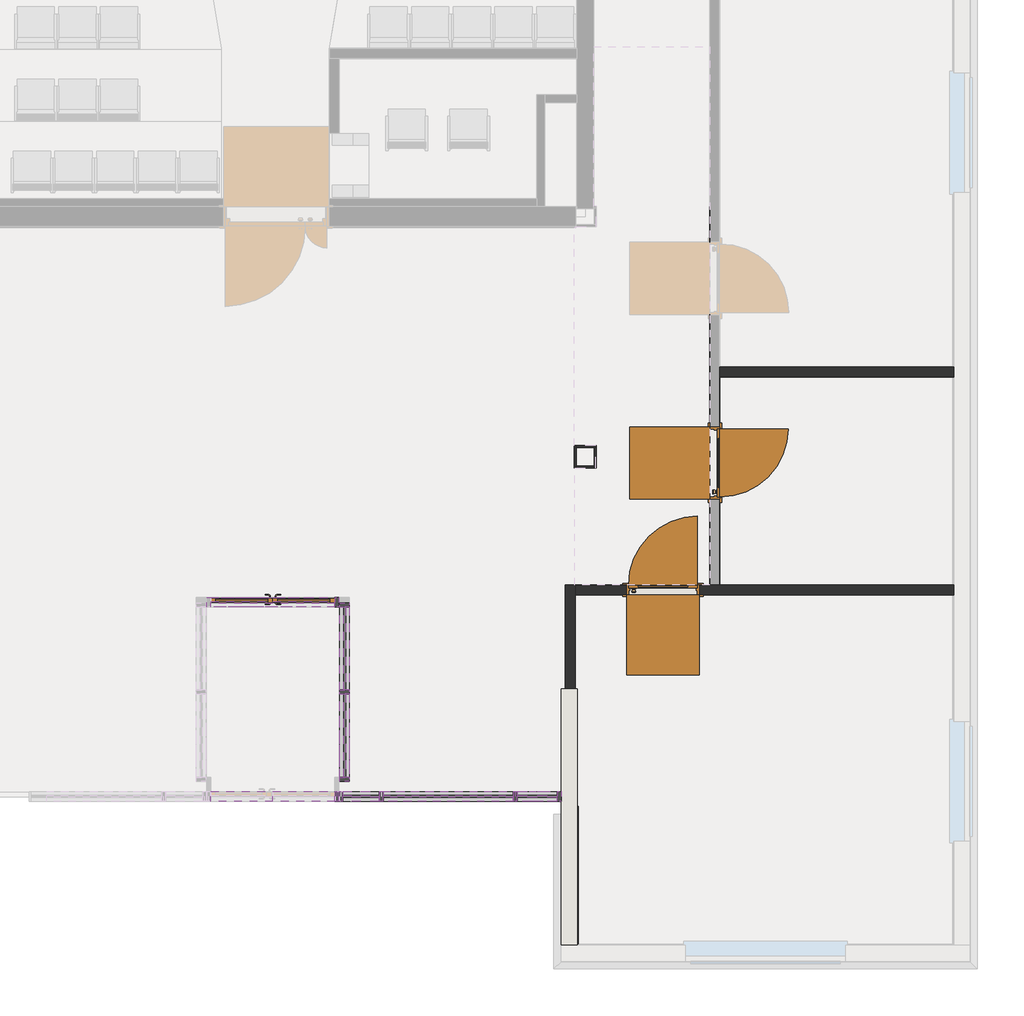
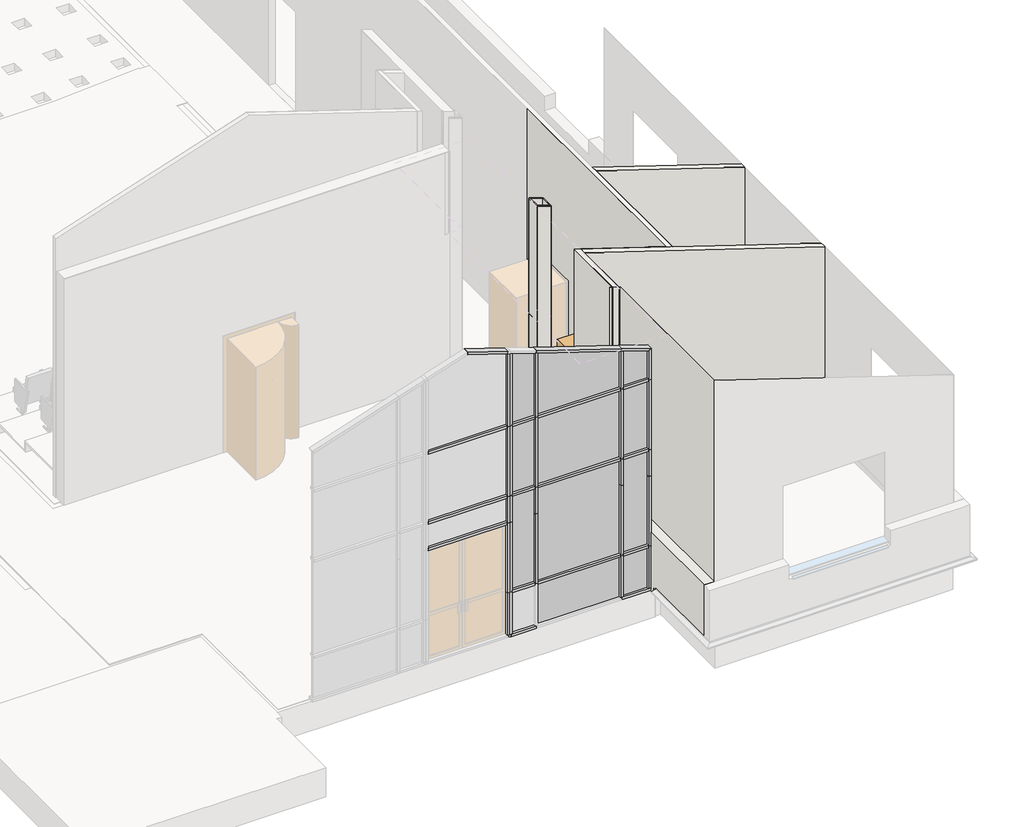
# One storey, part 3 of 12: 58 members, 24 walls, 16 plates, 3 doors.
"""IFC4 building model written with IfcOpenShell, lengths in millimetres."""

from ifc_helpers import new_model, si_unit, frame, origin, place, context, project, spatial, polyline, outline, extrude, faceted_brep, transform, mapped, element, save
from components import door_6d2ea87a, door_3526fbcb, door_7bd7211d, member_14b48f45, member_1f892d2c, member_0c93b0de, member_f3a47fe4, member_37b4f0c1, member_65f3ab26, member_be4b0839, member_e695081a, member_29d476af, member_6b16d565, member_849f455b, member_9f80fade, member_8a05520d, member_848a273c, member_29c79f2a, member_593096ae, member_ba40098e, member_371dc289, member_97a6f101, member_0fd53cfc, member_ea9aa2e4, member_955f90e7, member_051b1cdf, member_db976e64, member_66ab7281, member_6d54f6d0, member_7e95aabb, member_1ef56fb2, member_f5f8aabc, member_367de799, member_79c3f76f, member_659f706c, member_55b47cd8, member_7c7a4136, member_9a541c1d, plate_a1c813a6, plate_fddd94f5, plate_d262b3ab, plate_42e33a89, plate_0c04f2eb, plate_f36334f9, plate_ecf12d1f, plate_495b3162, plate_d46d3da3, plate_d651b3ad, plate_3bc05f15, plate_0d3e0286, plate_43bee1a1, plate_505dbdeb

model = new_model("IFC4")

# Units and contexts
model_context = context("Model", 3, world=origin())
ifc_project = project(units=[si_unit("LENGTHUNIT", "METRE", prefix="MILLI")], contexts=[model_context])

# Site, building, storey
site = spatial("IfcSite", under=ifc_project)
building = spatial("IfcBuilding", under=site)
storey = spatial("IfcBuildingStorey", under=building, Name="Этаж 01", Elevation=0.0)

# Doors
placement = place(None, origin())
door_shape = door_6d2ea87a(model_context)
element("IfcDoor", 1, ObjectType="Дверь-Витраж-Двойная-Витрина : Дверь-Витраж-Двойная-Витрина", at=placement, inside=storey, context=model_context, shape_type="MappedRepresentation", body=[
    mapped(door_shape, transform((8400.1019042, 4185.2487567, 50.0), x_axis=(1.0, 0.0, 0.0), y_axis=(0.0, 1.0, 0.0), z_axis=(0.0, 0.0, 1.0))),
])
door_2_shape = door_3526fbcb(model_context)
element("IfcDoor", 2, ObjectType="Дверь_Деревянная_Внутренняя_Однопольная_ГОСТ_475-2016 : 0910 х 2070(h)_Л_с Порогом", at=placement, inside=storey, context=model_context, shape_type="MappedRepresentation", body=[
    mapped(door_2_shape, transform((13270.0, 4340.6707095, 0.0), x_axis=(1.0, 0.0, 0.0), y_axis=(0.0, 1.0, 0.0), z_axis=(0.0, 0.0, 1.0))),
])
door_3_shape = door_7bd7211d(model_context)
element("IfcDoor", 3, ObjectType="Дверь_Деревянная_Внутренняя_Однопольная_ГОСТ_475-2016 : 1010 х 2070(h)_Пр_с Порогом 2", at=placement, inside=storey, context=model_context, shape_type="MappedRepresentation", body=[
    mapped(door_3_shape, transform((13920.675, 5924.9957095, 0.0), x_axis=(0.0, -1.0, 0.0), y_axis=(1.0, 0.0, 0.0), z_axis=(0.0, 0.0, 1.0))),
])

# Members
member_shape = member_14b48f45(model_context)
element("IfcMember", 4, ObjectType="Прямоугольный импост : 50х120 мм", at=placement, inside=storey, context=model_context, shape_type="MappedRepresentation", body=[
    mapped(member_shape, transform((11425.0, 1760.3517467, 0.0), x_axis=(0.0, 0.0, -1.0), y_axis=(0.0, -1.0, 0.0), z_axis=(-1.0, 0.0, 0.0))),
])
member_2_shape = member_1f892d2c(model_context)
element("IfcMember", 5, ObjectType="Прямоугольный импост : 50х120 мм", at=placement, inside=storey, context=model_context, shape_type="MappedRepresentation", body=[
    mapped(member_2_shape, transform((11950.0, 1760.3517467, 2925.0), x_axis=(0.0, 0.0, 1.0), y_axis=(0.0, -1.0, 0.0), z_axis=(1.0, 0.0, 0.0))),
])
element("IfcMember", 6, ObjectType="Прямоугольный импост : 50х120 мм", at=placement, inside=storey, context=model_context, shape_type="MappedRepresentation", body=[
    mapped(member_2_shape, transform((11950.0, 1760.3517467, 4375.0), x_axis=(0.0, 0.0, 1.0), y_axis=(0.0, -1.0, 0.0), z_axis=(1.0, 0.0, 0.0))),
])
element("IfcMember", 7, ObjectType="Прямоугольный импост : 50х120 мм", at=placement, inside=storey, context=model_context, shape_type="MappedRepresentation", body=[
    mapped(member_2_shape, transform((11950.0, 1760.3517467, 925.0), x_axis=(0.0, 0.0, 1.0), y_axis=(0.0, -1.0, 0.0), z_axis=(1.0, 0.0, 0.0))),
])
member_3_shape = member_0c93b0de(model_context)
element("IfcMember", 8, ObjectType="Прямоугольный импост : 50х120 мм", at=placement, inside=storey, context=model_context, shape_type="MappedRepresentation", body=[
    mapped(member_3_shape, transform((11425.0, 1760.3517467, 4375.0), x_axis=(1.0, 0.0, 0.0), y_axis=(0.0, -1.0, 0.0), z_axis=(0.0, 0.0, -1.0))),
])
member_4_shape = member_f3a47fe4(model_context)
element("IfcMember", 9, ObjectType="Прямоугольный импост : 50х120 мм", at=placement, inside=storey, context=model_context, shape_type="MappedRepresentation", body=[
    mapped(member_4_shape, transform((12000.0, 1760.3517467, 4375.0), x_axis=(1.0, 0.0, 0.0), y_axis=(0.0, -1.0, 0.0), z_axis=(0.0, 0.0, -1.0))),
])
member_5_shape = member_37b4f0c1(model_context)
element("IfcMember", 10, ObjectType="Прямоугольный импост : 50х120 мм", at=placement, inside=storey, context=model_context, shape_type="MappedRepresentation", body=[
    mapped(member_5_shape, transform((12000.0, 1760.3517467, 5024.9616899), x_axis=(0.30901699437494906, 0.0, 0.9510565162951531), y_axis=(0.0, -1.0, 0.0), z_axis=(0.9510565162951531, 0.0, -0.30901699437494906))),
])
member_6_shape = member_65f3ab26(model_context)
element("IfcMember", 11, ObjectType="Прямоугольный импост : 50х120 мм", at=placement, inside=storey, context=model_context, shape_type="MappedRepresentation", body=[
    mapped(member_6_shape, transform((11425.0, 1760.3517467, 5211.7905153), x_axis=(0.30901699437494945, 0.0, 0.951056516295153), y_axis=(0.0, -1.0, 0.0), z_axis=(0.951056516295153, 0.0, -0.30901699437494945))),
])
member_7_shape = member_be4b0839(model_context)
element("IfcMember", 12, ObjectType="Прямоугольный импост : 50х120 мм", at=placement, inside=storey, context=model_context, shape_type="MappedRepresentation", body=[
    mapped(member_7_shape, transform((9250.0630762, 1760.3517467, 0.0), x_axis=(0.0, 0.0, -1.0), y_axis=(0.0, -1.0, 0.0), z_axis=(-1.0, 0.0, 0.0))),
])
member_8_shape = member_e695081a(model_context)
element("IfcMember", 13, ObjectType="Прямоугольный импост : 50х120 мм", at=placement, inside=storey, context=model_context, shape_type="MappedRepresentation", body=[
    mapped(member_8_shape, transform((9725.0630762, 1760.3517467, 2925.0), x_axis=(0.0, 0.0, 1.0), y_axis=(0.0, -1.0, 0.0), z_axis=(1.0, 0.0, 0.0))),
])
element("IfcMember", 14, ObjectType="Прямоугольный импост : 50х120 мм", at=placement, inside=storey, context=model_context, shape_type="MappedRepresentation", body=[
    mapped(member_8_shape, transform((9725.0630762, 1760.3517467, 4375.0), x_axis=(0.0, 0.0, 1.0), y_axis=(0.0, -1.0, 0.0), z_axis=(1.0, 0.0, 0.0))),
])
element("IfcMember", 15, ObjectType="Прямоугольный импост : 50х120 мм", at=placement, inside=storey, context=model_context, shape_type="MappedRepresentation", body=[
    mapped(member_8_shape, transform((9725.0630762, 1760.3517467, 925.0), x_axis=(0.0, 0.0, 1.0), y_axis=(0.0, -1.0, 0.0), z_axis=(1.0, 0.0, 0.0))),
])
member_9_shape = member_29d476af(model_context)
element("IfcMember", 16, ObjectType="Прямоугольный импост : 50х120 мм", at=placement, inside=storey, context=model_context, shape_type="MappedRepresentation", body=[
    mapped(member_9_shape, transform((11400.0, 1760.3517467, 2925.0), x_axis=(0.0, 0.0, 1.0), y_axis=(0.0, -1.0, 0.0), z_axis=(1.0, 0.0, 0.0))),
])
element("IfcMember", 17, ObjectType="Прямоугольный импост : 50х120 мм", at=placement, inside=storey, context=model_context, shape_type="MappedRepresentation", body=[
    mapped(member_9_shape, transform((11400.0, 1760.3517467, 4375.0), x_axis=(0.0, 0.0, 1.0), y_axis=(0.0, -1.0, 0.0), z_axis=(1.0, 0.0, 0.0))),
])
element("IfcMember", 18, ObjectType="Прямоугольный импост : 50х120 мм", at=placement, inside=storey, context=model_context, shape_type="MappedRepresentation", body=[
    mapped(member_9_shape, transform((11400.0, 1760.3517467, 925.0), x_axis=(0.0, 0.0, 1.0), y_axis=(0.0, -1.0, 0.0), z_axis=(1.0, 0.0, 0.0))),
])
member_10_shape = member_6b16d565(model_context)
element("IfcMember", 19, ObjectType="Прямоугольный импост : 50х120 мм", at=placement, inside=storey, context=model_context, shape_type="MappedRepresentation", body=[
    mapped(member_10_shape, transform((9750.0630762, 1760.3517467, 4375.0), x_axis=(1.0, 0.0, 0.0), y_axis=(0.0, -1.0, 0.0), z_axis=(0.0, 0.0, -1.0))),
])
member_11_shape = member_849f455b(model_context)
element("IfcMember", 20, ObjectType="Прямоугольный импост : 50х120 мм", at=placement, inside=storey, context=model_context, shape_type="MappedRepresentation", body=[
    mapped(member_11_shape, transform((9200.0630762, 1760.3517467, 2925.0), x_axis=(1.0, 0.0, 0.0), y_axis=(0.0, -1.0, 0.0), z_axis=(0.0, 0.0, -1.0))),
])
element("IfcMember", 21, ObjectType="Прямоугольный импост : 50х120 мм", at=placement, inside=storey, context=model_context, shape_type="MappedRepresentation", body=[
    mapped(member_11_shape, transform((9250.0630762, 1760.3517467, 2925.0), x_axis=(1.0, 0.0, 0.0), y_axis=(0.0, -1.0, 0.0), z_axis=(0.0, 0.0, -1.0))),
])
element("IfcMember", 22, ObjectType="Прямоугольный импост : 50х120 мм", at=placement, inside=storey, context=model_context, shape_type="MappedRepresentation", body=[
    mapped(member_11_shape, transform((9750.0630762, 1760.3517467, 2925.0), x_axis=(1.0, 0.0, 0.0), y_axis=(0.0, -1.0, 0.0), z_axis=(0.0, 0.0, -1.0))),
])
element("IfcMember", 23, ObjectType="Прямоугольный импост : 50х120 мм", at=placement, inside=storey, context=model_context, shape_type="MappedRepresentation", body=[
    mapped(member_11_shape, transform((11425.0, 1760.3517467, 2925.0), x_axis=(1.0, 0.0, 0.0), y_axis=(0.0, -1.0, 0.0), z_axis=(0.0, 0.0, -1.0))),
])
element("IfcMember", 24, ObjectType="Прямоугольный импост : 50х120 мм", at=placement, inside=storey, context=model_context, shape_type="MappedRepresentation", body=[
    mapped(member_11_shape, transform((9200.0630762, 1760.3517467, 925.0), x_axis=(1.0, 0.0, 0.0), y_axis=(0.0, -1.0, 0.0), z_axis=(0.0, 0.0, -1.0))),
])
member_12_shape = member_9f80fade(model_context)
element("IfcMember", 25, ObjectType="Прямоугольный импост : 50х120 мм", at=placement, inside=storey, context=model_context, shape_type="MappedRepresentation", body=[
    mapped(member_12_shape, transform((12000.0, 1760.3517467, 2925.0), x_axis=(1.0, 0.0, 0.0), y_axis=(0.0, -1.0, 0.0), z_axis=(0.0, 0.0, -1.0))),
])
member_13_shape = member_8a05520d(model_context)
element("IfcMember", 26, ObjectType="Прямоугольный импост : 50х120 мм", at=placement, inside=storey, context=model_context, shape_type="MappedRepresentation", body=[
    mapped(member_13_shape, transform((9200.0630762, 1760.3517467, 0.0), x_axis=(0.0, 0.0, -1.0), y_axis=(0.0, -1.0, 0.0), z_axis=(-1.0, 0.0, 0.0))),
])
member_14_shape = member_848a273c(model_context)
element("IfcMember", 27, ObjectType="Прямоугольный импост : 50х120 мм", at=placement, inside=storey, context=model_context, shape_type="MappedRepresentation", body=[
    mapped(member_14_shape, transform((9175.0630762, 1760.3517467, 2925.0), x_axis=(0.0, 0.0, 1.0), y_axis=(0.0, -1.0, 0.0), z_axis=(1.0, 0.0, 0.0))),
])
element("IfcMember", 28, ObjectType="Прямоугольный импост : 50х120 мм", at=placement, inside=storey, context=model_context, shape_type="MappedRepresentation", body=[
    mapped(member_14_shape, transform((9175.0630762, 1760.3517467, 4375.0), x_axis=(0.0, 0.0, 1.0), y_axis=(0.0, -1.0, 0.0), z_axis=(1.0, 0.0, 0.0))),
])
element("IfcMember", 29, ObjectType="Прямоугольный импост : 50х120 мм", at=placement, inside=storey, context=model_context, shape_type="MappedRepresentation", body=[
    mapped(member_14_shape, transform((9175.1019042, 4185.2487567, 2420.0), x_axis=(0.0, 0.0, 1.0), y_axis=(0.0, -1.0, 0.0), z_axis=(1.0, 0.0, 0.0))),
])
element("IfcMember", 30, ObjectType="Прямоугольный импост : 50х120 мм", at=placement, inside=storey, context=model_context, shape_type="MappedRepresentation", body=[
    mapped(member_14_shape, transform((9175.0630762, 1760.3517467, 2375.0), x_axis=(0.0, 0.0, 1.0), y_axis=(0.0, -1.0, 0.0), z_axis=(1.0, 0.0, 0.0))),
])
member_15_shape = member_29c79f2a(model_context)
element("IfcMember", 31, ObjectType="Прямоугольный импост : 50х120 мм", at=placement, inside=storey, context=model_context, shape_type="MappedRepresentation", body=[
    mapped(member_15_shape, transform((11425.0, 1760.3517467, 50.0), x_axis=(1.0, 0.0, 0.0), y_axis=(0.0, -1.0, 0.0), z_axis=(0.0, 0.0, -1.0))),
])
element("IfcMember", 32, ObjectType="Прямоугольный импост : 50х120 мм", at=placement, inside=storey, context=model_context, shape_type="MappedRepresentation", body=[
    mapped(member_15_shape, transform((9250.0630762, 1760.3517467, 50.0), x_axis=(1.0, 0.0, 0.0), y_axis=(0.0, -1.0, 0.0), z_axis=(0.0, 0.0, -1.0))),
])
element("IfcMember", 33, ObjectType="Прямоугольный импост : 50х120 мм", at=placement, inside=storey, context=model_context, shape_type="MappedRepresentation", body=[
    mapped(member_15_shape, transform((9200.0630762, 1760.3517467, 50.0), x_axis=(1.0, 0.0, 0.0), y_axis=(0.0, -1.0, 0.0), z_axis=(0.0, 0.0, -1.0))),
])
member_16_shape = member_593096ae(model_context)
element("IfcMember", 34, ObjectType="Прямоугольный импост : 50х120 мм", at=placement, inside=storey, context=model_context, shape_type="MappedRepresentation", body=[
    mapped(member_16_shape, transform((12000.0, 1760.3517467, 50.0), x_axis=(1.0, 0.0, 0.0), y_axis=(0.0, -1.0, 0.0), z_axis=(0.0, 0.0, -1.0))),
])
member_17_shape = member_ba40098e(model_context)
element("IfcMember", 35, ObjectType="Прямоугольный импост : 50х120 мм", at=placement, inside=storey, context=model_context, shape_type="MappedRepresentation", body=[
    mapped(member_17_shape, transform((9175.1019042, 4185.2487567, 2950.0), x_axis=(0.0, 0.0, 1.0), y_axis=(0.0, -1.0, 0.0), z_axis=(1.0, 0.0, 0.0))),
])
member_18_shape = member_371dc289(model_context)
element("IfcMember", 36, ObjectType="Прямоугольный импост : 50х120 мм", at=placement, inside=storey, context=model_context, shape_type="MappedRepresentation", body=[
    mapped(member_18_shape, transform((9225.1019042, 4185.2487567, 50.0), x_axis=(1.0, 0.0, 0.0), y_axis=(0.0, -1.0, 0.0), z_axis=(0.0, 0.0, -1.0))),
])
member_19_shape = member_97a6f101(model_context)
element("IfcMember", 37, ObjectType="Прямоугольный импост : 50х120 мм", at=placement, inside=storey, context=model_context, shape_type="MappedRepresentation", body=[
    mapped(member_19_shape, transform((9225.1019042, 4185.2487567, 2420.0), x_axis=(1.0, 0.0, 0.0), y_axis=(0.0, -1.0, 0.0), z_axis=(0.0, 0.0, -1.0))),
])
member_20_shape = member_0fd53cfc(model_context)
element("IfcMember", 38, ObjectType="Прямоугольный импост : 50х120 мм", at=placement, inside=storey, context=model_context, shape_type="MappedRepresentation", body=[
    mapped(member_20_shape, transform((9295.0, 3062.7487567, 0.0), x_axis=(0.0, 0.0, -1.0), y_axis=(1.0, 0.0, 0.0), z_axis=(0.0, -1.0, 0.0))),
])
member_21_shape = member_ea9aa2e4(model_context)
element("IfcMember", 39, ObjectType="Прямоугольный импост : 50х120 мм", at=placement, inside=storey, context=model_context, shape_type="MappedRepresentation", body=[
    mapped(member_21_shape, transform((9295.0, 3062.7487567, 50.0), x_axis=(0.0, 1.0, 0.0), y_axis=(1.0, 0.0, 0.0), z_axis=(0.0, 0.0, -1.0))),
])
member_22_shape = member_955f90e7(model_context)
element("IfcMember", 40, ObjectType="Прямоугольный импост : 50х120 мм", at=placement, inside=storey, context=model_context, shape_type="MappedRepresentation", body=[
    mapped(member_22_shape, transform((9295.0, 3037.7487567, 2390.0), x_axis=(0.0, 0.0, 1.0), y_axis=(1.0, 0.0, 0.0), z_axis=(0.0, 1.0, 0.0))),
])
element("IfcMember", 41, ObjectType="Прямоугольный импост : 50х120 мм", at=placement, inside=storey, context=model_context, shape_type="MappedRepresentation", body=[
    mapped(member_22_shape, transform((9295.0, 4125.2487567, 2390.0), x_axis=(0.0, 0.0, 1.0), y_axis=(1.0, 0.0, 0.0), z_axis=(0.0, 1.0, 0.0))),
])
member_23_shape = member_051b1cdf(model_context)
element("IfcMember", 42, ObjectType="Прямоугольный импост : 50х120 мм", at=placement, inside=storey, context=model_context, shape_type="MappedRepresentation", body=[
    mapped(member_23_shape, transform((9295.0, 4175.2487567, 50.0), x_axis=(0.0, 1.0, 0.0), y_axis=(1.0, 0.0, 0.0), z_axis=(0.0, 0.0, -1.0))),
])
member_24_shape = member_db976e64(model_context)
element("IfcMember", 43, ObjectType="Прямоугольный импост : 50х120 мм", at=placement, inside=storey, context=model_context, shape_type="MappedRepresentation", body=[
    mapped(member_24_shape, transform((9295.0, 1950.2487567, 2900.0), x_axis=(0.0, -1.0, 0.0), y_axis=(1.0, 0.0, 0.0), z_axis=(0.0, 0.0, 1.0))),
])
member_25_shape = member_66ab7281(model_context)
element("IfcMember", 44, ObjectType="Прямоугольный импост : 50х120 мм", at=placement, inside=storey, context=model_context, shape_type="MappedRepresentation", body=[
    mapped(member_25_shape, transform((9295.0, 4125.2487567, 2950.0), x_axis=(0.0, 0.0, 1.0), y_axis=(1.0, 0.0, 0.0), z_axis=(0.0, 1.0, 0.0))),
])
member_26_shape = member_6d54f6d0(model_context)
element("IfcMember", 45, ObjectType="Прямоугольный импост : 50х120 мм", at=placement, inside=storey, context=model_context, shape_type="MappedRepresentation", body=[
    mapped(member_26_shape, transform((9295.0, 2000.2487567, 0.0), x_axis=(0.0, 0.0, -1.0), y_axis=(1.0, 0.0, 0.0), z_axis=(0.0, -1.0, 0.0))),
])
member_27_shape = member_7e95aabb(model_context)
element("IfcMember", 46, ObjectType="Прямоугольный импост : 50х120 мм", at=placement, inside=storey, context=model_context, shape_type="MappedRepresentation", body=[
    mapped(member_27_shape, transform((9295.0, 3037.7487567, 2950.0), x_axis=(0.0, 0.0, 1.0), y_axis=(1.0, 0.0, 0.0), z_axis=(0.0, 1.0, 0.0))),
])
member_28_shape = member_1ef56fb2(model_context)
element("IfcMember", 47, ObjectType="Прямоугольный импост : 50х120 мм", at=placement, inside=storey, context=model_context, shape_type="MappedRepresentation", body=[
    mapped(member_28_shape, transform((9295.0, 3062.7487567, 2390.0), x_axis=(0.0, 1.0, 0.0), y_axis=(1.0, 0.0, 0.0), z_axis=(0.0, 0.0, -1.0))),
])
member_29_shape = member_f5f8aabc(model_context)
element("IfcMember", 48, ObjectType="Прямоугольный импост : 50х120 мм", at=placement, inside=storey, context=model_context, shape_type="MappedRepresentation", body=[
    mapped(member_29_shape, transform((9295.0, 4175.2487567, 2390.0), x_axis=(0.0, 1.0, 0.0), y_axis=(1.0, 0.0, 0.0), z_axis=(0.0, 0.0, -1.0))),
])
member_30_shape = member_367de799(model_context)
element("IfcMember", 49, ObjectType="Прямоугольный импост : 50х120 мм", at=placement, inside=storey, context=model_context, shape_type="MappedRepresentation", body=[
    mapped(member_30_shape, transform((9295.0, 1950.2487567, 2390.0), x_axis=(0.0, -1.0, 0.0), y_axis=(1.0, 0.0, 0.0), z_axis=(0.0, 0.0, 1.0))),
])
element("IfcMember", 50, ObjectType="Прямоугольный импост : 50х120 мм", at=placement, inside=storey, context=model_context, shape_type="MappedRepresentation", body=[
    mapped(member_11_shape, transform((9250.0630762, 1760.3517467, 925.0), x_axis=(1.0, 0.0, 0.0), y_axis=(0.0, -1.0, 0.0), z_axis=(0.0, 0.0, -1.0))),
])
element("IfcMember", 51, ObjectType="Прямоугольный импост : 50х120 мм", at=placement, inside=storey, context=model_context, shape_type="MappedRepresentation", body=[
    mapped(member_11_shape, transform((9750.0630762, 1760.3517467, 925.0), x_axis=(1.0, 0.0, 0.0), y_axis=(0.0, -1.0, 0.0), z_axis=(0.0, 0.0, -1.0))),
])
element("IfcMember", 52, ObjectType="Прямоугольный импост : 50х120 мм", at=placement, inside=storey, context=model_context, shape_type="MappedRepresentation", body=[
    mapped(member_11_shape, transform((11425.0, 1760.3517467, 925.0), x_axis=(1.0, 0.0, 0.0), y_axis=(0.0, -1.0, 0.0), z_axis=(0.0, 0.0, -1.0))),
])
member_31_shape = member_79c3f76f(model_context)
element("IfcMember", 53, ObjectType="Прямоугольный импост : 50х120 мм", at=placement, inside=storey, context=model_context, shape_type="MappedRepresentation", body=[
    mapped(member_31_shape, transform((9250.0630762, 1760.3517467, 2375.0), x_axis=(1.0, 0.0, 0.0), y_axis=(0.0, -1.0, 0.0), z_axis=(0.0, 0.0, -1.0))),
])
element("IfcMember", 54, ObjectType="Прямоугольный импост : 50х120 мм", at=placement, inside=storey, context=model_context, shape_type="MappedRepresentation", body=[
    mapped(member_31_shape, transform((9750.0630762, 1760.3517467, 2375.0), x_axis=(1.0, 0.0, 0.0), y_axis=(0.0, -1.0, 0.0), z_axis=(0.0, 0.0, -1.0))),
])
element("IfcMember", 55, ObjectType="Прямоугольный импост : 50х120 мм", at=placement, inside=storey, context=model_context, shape_type="MappedRepresentation", body=[
    mapped(member_31_shape, transform((11425.0, 1760.3517467, 2375.0), x_axis=(1.0, 0.0, 0.0), y_axis=(0.0, -1.0, 0.0), z_axis=(0.0, 0.0, -1.0))),
])
element("IfcMember", 56, ObjectType="Прямоугольный импост : 50х120 мм", at=placement, inside=storey, context=model_context, shape_type="MappedRepresentation", body=[
    mapped(member_31_shape, transform((9200.0630762, 1760.3517467, 2375.0), x_axis=(1.0, 0.0, 0.0), y_axis=(0.0, -1.0, 0.0), z_axis=(0.0, 0.0, -1.0))),
])
element("IfcMember", 57, ObjectType="Прямоугольный импост : 50х120 мм", at=placement, inside=storey, context=model_context, shape_type="MappedRepresentation", body=[
    mapped(member_12_shape, transform((12000.0, 1760.3517467, 925.0), x_axis=(1.0, 0.0, 0.0), y_axis=(0.0, -1.0, 0.0), z_axis=(0.0, 0.0, -1.0))),
])
member_32_shape = member_659f706c(model_context)
element("IfcMember", 58, ObjectType="Прямоугольный импост : 50х120 мм", at=placement, inside=storey, context=model_context, shape_type="MappedRepresentation", body=[
    mapped(member_32_shape, transform((12000.0, 1760.3517467, 2375.0), x_axis=(1.0, 0.0, 0.0), y_axis=(0.0, -1.0, 0.0), z_axis=(0.0, 0.0, -1.0))),
])
member_33_shape = member_55b47cd8(model_context)
element("IfcMember", 59, ObjectType="Прямоугольный импост : 50х120 мм", at=placement, inside=storey, context=model_context, shape_type="MappedRepresentation", body=[
    mapped(member_33_shape, transform((9200.0630762, 1760.3517467, 5934.7163447), x_axis=(0.30901699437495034, 0.0, 0.9510565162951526), y_axis=(0.0, -1.0, 0.0), z_axis=(0.9510565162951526, 0.0, -0.30901699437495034))),
])
member_34_shape = member_7c7a4136(model_context)
element("IfcMember", 60, ObjectType="Прямоугольный импост : 50х120 мм", at=placement, inside=storey, context=model_context, shape_type="MappedRepresentation", body=[
    mapped(member_34_shape, transform((9200.0630762, 1760.3517467, 4375.0), x_axis=(1.0, 0.0, 0.0), y_axis=(0.0, -1.0, 0.0), z_axis=(0.0, 0.0, -1.0))),
])
member_35_shape = member_9a541c1d(model_context)
element("IfcMember", 61, ObjectType="Прямоугольный импост : 50х120 мм", at=placement, inside=storey, context=model_context, shape_type="MappedRepresentation", body=[
    mapped(member_35_shape, transform((9250.0630762, 1760.3517467, 4375.0), x_axis=(1.0, 0.0, 0.0), y_axis=(0.0, -1.0, 0.0), z_axis=(0.0, 0.0, -1.0))),
])

# Plates
plate_shape = plate_a1c813a6(model_context)
element("IfcPlate", 62, ObjectType="Системная панель : ADSK_Cтеклопакет_25", at=placement, inside=storey, context=model_context, shape_type="MappedRepresentation", body=[
    mapped(plate_shape, transform((11700.0, 1760.3517467, 50.0), x_axis=(1.0, 0.0, 0.0), y_axis=(0.0, 1.0, 0.0), z_axis=(0.0, 0.0, 1.0))),
])
plate_2_shape = plate_fddd94f5(model_context)
element("IfcPlate", 63, ObjectType="Системная панель : ADSK_Cтеклопакет_25 мм", at=placement, inside=storey, context=model_context, shape_type="MappedRepresentation", body=[
    mapped(plate_2_shape, transform((11700.0, 1760.3517467, 2950.0), x_axis=(1.0, 0.0, 0.0), y_axis=(0.0, 1.0, 0.0), z_axis=(0.0, 0.0, 1.0))),
])
plate_3_shape = plate_d262b3ab(model_context)
element("IfcPlate", 64, ObjectType="Системная панель : ADSK_Cтеклопакет_25 мм", at=placement, inside=storey, context=model_context, shape_type="MappedRepresentation", body=[
    mapped(plate_3_shape, transform((11700.0, 1760.3517467, 4400.0), x_axis=(1.0, 0.0, 0.0), y_axis=(0.0, 1.0, 0.0), z_axis=(0.0, 0.0, 1.0))),
])
plate_4_shape = plate_42e33a89(model_context)
element("IfcPlate", 65, ObjectType="Системная панель : ADSK_Cтеклопакет_25 мм", at=placement, inside=storey, context=model_context, shape_type="MappedRepresentation", body=[
    mapped(plate_4_shape, transform((11700.0, 1760.3517467, 950.0), x_axis=(1.0, 0.0, 0.0), y_axis=(0.0, 1.0, 0.0), z_axis=(0.0, 0.0, 1.0))),
])
plate_5_shape = plate_0c04f2eb(model_context)
element("IfcPlate", 66, ObjectType="Системная панель : ADSK_Cтеклопакет_25", at=placement, inside=storey, context=model_context, shape_type="MappedRepresentation", body=[
    mapped(plate_5_shape, transform((10587.5315381, 1760.3517467, 50.0), x_axis=(1.0, 0.0, 0.0), y_axis=(0.0, 1.0, 0.0), z_axis=(0.0, 0.0, 1.0))),
])
plate_6_shape = plate_f36334f9(model_context)
element("IfcPlate", 67, ObjectType="Системная панель : ADSK_Cтеклопакет_25 мм", at=placement, inside=storey, context=model_context, shape_type="MappedRepresentation", body=[
    mapped(plate_6_shape, transform((9500.0630762, 1760.3517467, 2950.0), x_axis=(1.0, 0.0, 0.0), y_axis=(0.0, 1.0, 0.0), z_axis=(0.0, 0.0, 1.0))),
])
plate_7_shape = plate_ecf12d1f(model_context)
element("IfcPlate", 68, ObjectType="Системная панель : ADSK_Cтеклопакет_25 мм", at=placement, inside=storey, context=model_context, shape_type="MappedRepresentation", body=[
    mapped(plate_7_shape, transform((10587.5315381, 1760.3517467, 2950.0), x_axis=(1.0, 0.0, 0.0), y_axis=(0.0, 1.0, 0.0), z_axis=(0.0, 0.0, 1.0))),
])
plate_8_shape = plate_495b3162(model_context)
element("IfcPlate", 69, ObjectType="Системная панель : ADSK_Cтеклопакет_25 мм", at=placement, inside=storey, context=model_context, shape_type="MappedRepresentation", body=[
    mapped(plate_8_shape, transform((9500.0630762, 1760.3517467, 4400.0), x_axis=(1.0, 0.0, 0.0), y_axis=(0.0, 1.0, 0.0), z_axis=(0.0, 0.0, 1.0))),
])
plate_9_shape = plate_d46d3da3(model_context)
element("IfcPlate", 70, ObjectType="Системная панель : ADSK_Cтеклопакет_25 мм", at=placement, inside=storey, context=model_context, shape_type="MappedRepresentation", body=[
    mapped(plate_9_shape, transform((10587.5315381, 1760.3517467, 4400.0), x_axis=(1.0, 0.0, 0.0), y_axis=(0.0, 1.0, 0.0), z_axis=(0.0, 0.0, 1.0))),
])
plate_10_shape = plate_d651b3ad(model_context)
element("IfcPlate", 71, ObjectType="Системная панель : ADSK_Cтеклопакет_25 мм", at=placement, inside=storey, context=model_context, shape_type="MappedRepresentation", body=[
    mapped(plate_10_shape, transform((9500.0630762, 1760.3517467, 950.0), x_axis=(1.0, 0.0, 0.0), y_axis=(0.0, 1.0, 0.0), z_axis=(0.0, 0.0, 1.0))),
])
plate_11_shape = plate_3bc05f15(model_context)
element("IfcPlate", 72, ObjectType="Системная панель : ADSK_Cтеклопакет_25 мм", at=placement, inside=storey, context=model_context, shape_type="MappedRepresentation", body=[
    mapped(plate_11_shape, transform((10587.5315381, 1760.3517467, 950.0), x_axis=(1.0, 0.0, 0.0), y_axis=(0.0, 1.0, 0.0), z_axis=(0.0, 0.0, 1.0))),
])
plate_12_shape = plate_0d3e0286(model_context)
element("IfcPlate", 73, ObjectType="Системная панель : ADSK_Cтеклопакет_25 мм", at=placement, inside=storey, context=model_context, shape_type="MappedRepresentation", body=[
    mapped(plate_12_shape, transform((8400.1019042, 4185.2487567, 2445.0), x_axis=(1.0, 0.0, 0.0), y_axis=(0.0, 1.0, 0.0), z_axis=(0.0, 0.0, 1.0))),
])
plate_13_shape = plate_43bee1a1(model_context)
element("IfcPlate", 74, ObjectType="Системная панель : ADSK_Cтеклопакет_25 мм", at=placement, inside=storey, context=model_context, shape_type="MappedRepresentation", body=[
    mapped(plate_13_shape, transform((9295.0, 2518.9987567, 50.0), x_axis=(0.0, 1.0, 0.0), y_axis=(-1.0, 0.0, 0.0), z_axis=(0.0, 0.0, 1.0))),
])
element("IfcPlate", 75, ObjectType="Системная панель : ADSK_Cтеклопакет_25 мм", at=placement, inside=storey, context=model_context, shape_type="MappedRepresentation", body=[
    mapped(plate_13_shape, transform((9295.0, 3606.4987567, 50.0), x_axis=(0.0, 1.0, 0.0), y_axis=(-1.0, 0.0, 0.0), z_axis=(0.0, 0.0, 1.0))),
])
plate_14_shape = plate_505dbdeb(model_context)
element("IfcPlate", 76, ObjectType="Системная панель : ADSK_Cтеклопакет_25 мм", at=placement, inside=storey, context=model_context, shape_type="MappedRepresentation", body=[
    mapped(plate_14_shape, transform((9295.0, 2518.9987567, 2415.0), x_axis=(0.0, 1.0, 0.0), y_axis=(-1.0, 0.0, 0.0), z_axis=(0.0, 0.0, 1.0))),
])
element("IfcPlate", 77, ObjectType="Системная панель : ADSK_Cтеклопакет_25 мм", at=placement, inside=storey, context=model_context, shape_type="MappedRepresentation", body=[
    mapped(plate_14_shape, transform((9295.0, 3606.4987567, 2415.0), x_axis=(0.0, 1.0, 0.0), y_axis=(-1.0, 0.0, 0.0), z_axis=(0.0, 0.0, 1.0))),
])

# Walls
element("IfcWall", 78, ObjectType="Перегородка-КНАУФ-С362-Применение внутри здания-125/75@600 ГВЛ(ГВЛВ)  12,5", at=placement, inside=storey, context=model_context, shape_type="Brep", body=[
    faceted_brep([(12175.0, 3100.0, -20.0), (12175.0, 4337.4957095, -20.0), (12175.0, 4399.9957095, -20.0), (12175.0, 4399.9957095, 5383.3987949), (12175.0, 4274.9957095, 5383.3987949), (12175.0, 3100.0, 5383.3987949), (12050.0, 3100.0, -20.0), (12050.0, 3100.0, 5424.0147289), (12050.0, 4399.9957095, 5424.0147289), (12050.0, 4399.9957095, -20.0)], [[[0, 1, 2, 3, 4, 5]], [[6, 7, 8, 9]], [[2, 1, 0, 6, 9]], [[0, 5, 7, 6]], [[5, 4, 3, 8, 7]], [[3, 2, 9, 8]]]),
])
element("IfcWall", 79, ObjectType="Перегородка-КНАУФ-С362-Применение внутри здания-125/75@600 ГВЛ(ГВЛВ)  12,5", at=placement, inside=storey, context=model_context, shape_type="Brep", body=[
    faceted_brep([(16900.0, 4274.9957095, 3848.1164919), (12175.0, 4274.9957095, 5383.3987949), (12175.0, 4274.9957095, -3.0), (16885.0, 4274.9957095, -3.0), (16885.0, 4274.9957095, 100.0), (16899.0, 4274.9957095, 100.0), (16900.0, 4274.9957095, 100.0), (13725.0, 4274.9957095, 2070.0), (13725.0, 4274.9957095, 0.0), (12815.0, 4274.9957095, 0.0), (12815.0, 4274.9957095, 2070.0), (16885.0, 4399.9957095, 100.0), (16885.0, 4399.9957095, -20.0), (13980.0, 4399.9957095, -20.0), (13855.0, 4399.9957095, -20.0), (12175.0, 4399.9957095, -20.0), (12175.0, 4399.9957095, 0.0), (12175.0, 4399.9957095, 5383.3987949), (13855.0, 4399.9957095, 4837.5206427), (13980.0, 4399.9957095, 4796.9047088), (16900.0, 4399.9957095, 3848.1164919), (16900.0, 4399.9957095, 100.0), (16899.0, 4399.9957095, 100.0), (13725.0, 4399.9957095, 0.0), (13725.0, 4399.9957095, 2070.0), (12815.0, 4399.9957095, 2070.0), (12815.0, 4399.9957095, 0.0), (16885.0, 4337.4957095, -20.0), (12175.0, 4337.4957095, -20.0), (16885.0, 4337.4957095, -3.0), (12175.0, 4337.4957095, -3.0)], [[[0, 1, 2, 3, 4, 5, 6], [7, 8, 9, 10]], [[11, 12, 13, 14, 15, 16, 17, 18, 19, 20, 21, 22], [23, 24, 25, 26]], [[27, 28, 15, 14, 13, 12]], [[23, 8, 7, 24]], [[24, 7, 10, 25]], [[9, 26, 25, 10]], [[8, 23, 26, 9]], [[12, 11, 4, 3, 29, 27]], [[1, 0, 20, 19, 18, 17]], [[6, 5, 4, 11, 22, 21]], [[20, 0, 6, 21]], [[3, 2, 30, 29]], [[28, 27, 29, 30]], [[1, 17, 16, 15, 28, 30, 2]]]),
])
element("IfcWall", 80, ObjectType="Перегородка-КНАУФ-С362-Применение внутри здания-125/75@600 ГВЛ(ГВЛВ)  12,5", at=placement, inside=storey, context=model_context, shape_type="Brep", body=[
    faceted_brep([(13980.0, 7000.0, -20.0), (16885.0, 7000.0, -20.0), (16885.0, 7000.0, 100.0), (16899.0, 7000.0, 100.0), (16900.0, 7000.0, 100.0), (16900.0, 7000.0, 3848.1164919), (13980.0, 7000.0, 4796.9047088), (13980.0, 7125.0, 4796.9047088), (16900.0, 7125.0, 3848.1164919), (16900.0, 7125.0, 100.0), (16885.0, 7125.0, 100.0), (16885.0, 7125.0, -3.0), (13980.0, 7125.0, -3.0), (13980.0, 7062.5, -20.0), (16885.0, 7062.5, -20.0), (13980.0, 7062.5, -3.0), (16885.0, 7062.5, -3.0)], [[[0, 1, 2, 3, 4, 5, 6]], [[7, 8, 9, 10, 11, 12]], [[1, 0, 13, 14]], [[0, 6, 7, 12, 15, 13]], [[2, 1, 14, 16, 11, 10]], [[6, 5, 8, 7]], [[16, 15, 12, 11]], [[15, 16, 14, 13]], [[8, 5, 4, 9]], [[4, 3, 2, 10, 9]]]),
])
element("IfcWall", 81, ObjectType="ADSK_Наружная_Сэндвич_Утеплитель_200 RAL 8017", at=placement, inside=storey, context=model_context, shape_type="Brep", body=[
    faceted_brep([(12200.0, -100.0, 100.0), (12200.0, 1635.3517467, 100.0), (12200.0, 1635.3517467, 0.0), (12200.0, 1635.3517467, -3.0), (12200.0, 1635.3517467, -20.0), (12200.0, 3100.5, -20.0), (12200.0, 3100.5, 1200.0), (12200.0, -100.0, 1200.0), (12000.0, -100.0, 100.0), (12000.0, -100.0, 1200.0), (12000.0, 3100.5, 1200.0), (12000.0, 3100.5, -20.0), (12000.0, 1635.3517467, -20.0), (12000.0, 1635.3517467, 100.0), (12095.0, 1635.3517467, 100.0), (12095.0, 1635.3517467, -20.0)], [[[0, 1, 2, 3, 4, 5, 6, 7]], [[8, 9, 10, 11, 12, 13]], [[0, 7, 9, 8]], [[1, 0, 8, 13, 14]], [[6, 5, 11, 10]], [[7, 6, 10, 9]], [[4, 3, 2, 1, 14, 13, 12, 15]], [[5, 4, 15, 12, 11]]]),
])
element("IfcWall", 82, ObjectType="ADSK_Внутренняя_Кирпич_120", at=placement, inside=storey, context=model_context, shape_type="Brep", body=[
    faceted_brep([(12215.0, 1635.3517467, 100.0), (12215.0, -85.0, 100.0), (12215.0, -85.0, 0.0), (12215.0, 1635.3517467, 0.0), (12215.0, -85.0, -3.0), (12215.0, -85.0, -25.0), (12215.0, 45.0, -25.0), (12215.0, 45.0, -20.0), (12215.0, 1635.3517467, -20.0), (12215.0, 1635.3517467, -3.0), (12095.0, -85.0, 100.0), (12095.0, 1635.3517467, 100.0), (12095.0, 1635.3517467, -20.0), (12095.0, 45.0, -20.0), (12095.0, 45.0, -25.0), (12095.0, -85.0, -25.0), (12200.0, 1635.3517467, 100.0), (12200.0, 1635.3517467, 0.0), (12200.0, 1635.3517467, -3.0), (12200.0, 1635.3517467, -20.0), (12200.0, -85.0, -3.0), (12200.0, -85.0, 0.0)], [[[0, 1, 2, 3]], [[4, 5, 6, 7, 8, 9]], [[10, 11, 12, 13, 14, 15]], [[5, 15, 14, 6]], [[11, 16, 0, 3, 17, 18, 9, 8, 19, 12]], [[1, 0, 16, 11, 10]], [[7, 13, 12, 19, 8]], [[13, 7, 6, 14]], [[18, 20, 4, 9]], [[21, 17, 3, 2]], [[20, 18, 17, 21]], [[1, 10, 15, 5, 4, 20, 21, 2]]]),
])
element("IfcWall", 83, ObjectType="Отделка - Акриловая покраска по Кнауф-суперлистам_1 мм", at=placement, inside=storey, context=model_context, shape_type="Brep", body=[
    faceted_brep([(16885.0, 7000.0, 0.0), (13980.0, 7000.0, 0.0), (13980.0, 7000.0, 4796.9047088), (16900.0, 7000.0, 3848.1164919), (16900.0, 7000.0, 100.0), (16885.0, 7000.0, 100.0), (16885.0, 6999.0, 0.0), (16885.0, 6999.0, 100.0), (16900.0, 6999.0, 100.0), (16900.0, 6999.0, 3848.1164919), (13981.0, 6999.0, 4796.5797813), (13980.0, 6999.0, 4796.9047088), (13980.0, 6999.0, 0.0), (13981.0, 6999.0, 0.0)], [[[0, 1, 2, 3, 4, 5]], [[6, 7, 8, 9, 10, 11, 12, 13]], [[1, 0, 6, 13, 12]], [[4, 8, 7, 5]], [[0, 5, 7, 6]], [[3, 9, 8, 4]], [[3, 2, 11, 10, 9]], [[2, 1, 12, 11]]]),
])
element("IfcWall", 84, ObjectType="Отделка - Акриловая покраска по Кнауф-суперлистам_1 мм", at=placement, inside=storey, context=model_context, shape_type="Brep", body=[
    faceted_brep([(13980.0, 4399.9957095, 4796.9047088), (13980.0, 6999.0, 4796.9047088), (13980.0, 6999.0, 0.0), (13980.0, 6374.9957095, 0.0), (13980.0, 6374.9957095, 2070.0), (13980.0, 5474.9957095, 2070.0), (13980.0, 5474.9957095, 0.0), (13980.0, 4399.9957095, 0.0), (13981.0, 6999.0, 4796.5797813), (13981.0, 4400.9957095, 4796.5797813), (13981.0, 4399.9957095, 4796.5797813), (13981.0, 4399.9957095, 0.0), (13981.0, 4400.9957095, 0.0), (13981.0, 5474.9957095, 0.0), (13981.0, 5474.9957095, 2070.0), (13981.0, 6374.9957095, 2070.0), (13981.0, 6374.9957095, 0.0), (13981.0, 6999.0, 0.0)], [[[0, 1, 2, 3, 4, 5, 6, 7]], [[8, 9, 10, 11, 12, 13, 14, 15, 16, 17]], [[2, 17, 16, 3]], [[11, 7, 6, 13, 12]], [[5, 14, 13, 6]], [[14, 5, 4, 15]], [[15, 4, 3, 16]], [[1, 0, 10, 9, 8]], [[2, 1, 8, 17]], [[0, 7, 11, 10]]]),
])
element("IfcWall", 85, ObjectType="Отделка - Акриловая покраска по Кнауф-суперлистам_1 мм", at=placement, inside=storey, context=model_context, shape_type="SweptSolid", body=[
    extrude(outline(polyline([(0.0, 13981.0), (0.0, 16885.0), (100.0, 16885.0), (100.0, 16900.0), (3848.1164919, 16900.0), (4796.5797813, 13981.0), (0.0, 13981.0)])), frame((0.0, 4399.9957095, 0.0), z_axis=(0.0, 1.0, 0.0), x_axis=(0.0, 0.0, 1.0)), (0.0, 0.0, 1.0), 1.0),
])
element("IfcWall", 86, ObjectType="Отделка - Акриловая покраска по Кнауф-суперлистам_1 мм", at=placement, inside=storey, context=model_context, shape_type="Brep", body=[
    faceted_brep([(16885.0, 4274.9957095, 0.0), (12175.1086127, 4274.9957095, 0.0), (12175.1086127, 4274.9957095, 5383.3635037), (16900.0, 4274.9957095, 3848.1164919), (16900.0, 4274.9957095, 100.0), (16885.0, 4274.9957095, 100.0), (16885.0, 4273.9957095, 0.0), (16885.0, 4273.9957095, 100.0), (16900.0, 4273.9957095, 100.0), (16900.0, 4273.9957095, 3848.1164919), (12176.1086127, 4273.9957095, 5383.0385762), (12175.1086127, 4273.9957095, 5383.3635037), (12175.1086127, 4273.9957095, 0.0), (12176.1086127, 4273.9957095, 0.0)], [[[0, 1, 2, 3, 4, 5]], [[6, 7, 8, 9, 10, 11, 12, 13]], [[1, 0, 6, 13, 12]], [[4, 8, 7, 5]], [[0, 5, 7, 6]], [[3, 9, 8, 4]], [[3, 2, 11, 10, 9]], [[2, 1, 12, 11]]]),
])
element("IfcWall", 87, ObjectType="Отделка - Акриловая покраска по Кнауф-суперлистам_1 мм", at=placement, inside=storey, context=model_context, shape_type="Brep", body=[
    faceted_brep([(12175.1086127, 4273.9957095, 0.0), (12175.1086127, 3100.5, 0.0), (12175.1086127, 3100.5, 100.0), (12175.1086127, 3101.0, 100.0), (12175.1086127, 3101.0, 3850.0), (12175.1086127, 3101.0, 5383.3635037), (12175.1086127, 4273.9957095, 5383.3635037), (12176.1086127, 4273.9957095, 0.0), (12176.1086127, 4273.9957095, 5383.0385762), (12176.1086127, 3101.0, 5383.0385762), (12176.1086127, 3101.0, 100.0), (12176.1086127, 3100.5, 100.0), (12176.1086127, 3100.5, 0.0)], [[[0, 1, 2, 3, 4, 5, 6]], [[7, 8, 9, 10, 11, 12]], [[1, 0, 7, 12]], [[6, 5, 9, 8]], [[0, 6, 8, 7]], [[2, 1, 12, 11]], [[10, 3, 2, 11]], [[5, 4, 3, 10, 9]]]),
])
element("IfcWall", 88, ObjectType="Отделка - Заводское покрытие сэндвич-панелей", at=placement, inside=storey, context=model_context, shape_type="Brep", body=[
    faceted_brep([(12175.1086127, 3100.0, 100.0), (12200.0, 3100.0, 100.0), (12200.0, 3100.0, 3850.0), (12175.1086127, 3100.0, 3850.0), (12175.1086127, 3101.0, 100.0), (12175.1086127, 3101.0, 3850.0), (12200.0, 3101.0, 3850.0), (12200.0, 3101.0, 100.0), (12176.1086127, 3101.0, 100.0)], [[[0, 1, 2, 3]], [[4, 5, 6, 7, 8]], [[1, 0, 4, 8, 7]], [[3, 2, 6, 5]], [[0, 3, 5, 4]], [[2, 1, 7, 6]]]),
])
element("IfcWall", 89, ObjectType="Отделка - Заводское покрытие сэндвич-панелей", at=placement, inside=storey, context=model_context, shape_type="Brep", body=[
    faceted_brep([(12200.0, 3101.0, 100.0), (12200.0, 3100.0, 100.0), (12200.0, -100.0, 100.0), (12200.0, -100.0, 5375.2756081), (12200.0, 3101.0, 5375.2756081), (12200.0, 3101.0, 3850.0), (12201.0, 3101.0, 100.0), (12201.0, 3101.0, 5374.9506807), (12201.0, -99.0, 5374.9506807), (12201.0, -100.0, 5374.9506807), (12201.0, -100.0, 100.0), (12201.0, -99.0, 100.0)], [[[0, 1, 2, 3, 4, 5]], [[6, 7, 8, 9, 10, 11]], [[2, 1, 0, 6, 11, 10]], [[2, 10, 9, 3]], [[4, 3, 9, 8, 7]], [[0, 5, 4, 7, 6]]]),
])
element("IfcWall", 90, ObjectType="Отделка - Акриловая покраска по Кнауф-суперлистам_1 мм", at=placement, inside=storey, context=model_context, shape_type="Brep", body=[
    faceted_brep([(12050.0, 3100.0, 0.0), (12050.0, 4399.9957095, 0.0), (12050.0, 4400.9957095, 0.0), (12050.0, 4400.9957095, 5424.0147289), (12050.0, 4399.9957095, 5424.0147289), (12050.0, 3100.0, 5424.0147289), (12049.0, 3100.0, 0.0), (12049.0, 3100.0, 5424.3396563), (12049.0, 4400.9957095, 5424.3396563), (12049.0, 4400.9957095, 0.0)], [[[0, 1, 2, 3, 4, 5]], [[6, 7, 8, 9]], [[2, 1, 0, 6, 9]], [[0, 5, 7, 6]], [[3, 2, 9, 8]], [[5, 4, 3, 8, 7]]]),
])
element("IfcWall", 91, ObjectType="Отделка - Акриловая покраска по Кнауф-суперлистам_1 мм", at=placement, inside=storey, context=model_context, shape_type="Brep", body=[
    faceted_brep([(12050.0, 4399.9957095, 5424.0147289), (12050.0, 4399.9957095, 0.0), (12815.0, 4399.9957095, 0.0), (12815.0, 4399.9957095, 2070.0), (13725.0, 4399.9957095, 2070.0), (13725.0, 4399.9957095, 0.0), (13855.0, 4399.9957095, 0.0), (13855.0, 4399.9957095, 4837.5206427), (12175.0, 4399.9957095, 5383.3987949), (12087.5, 4399.9957095, 3000.0), (12087.5, 4399.9957095, 4695.0), (12162.5, 4399.9957095, 4695.0), (12162.5, 4399.9957095, 3000.0), (12050.0, 4400.9957095, 0.0), (12050.0, 4400.9957095, 5424.0147289), (13854.0, 4400.9957095, 4837.8455702), (13855.0, 4400.9957095, 4837.5206427), (13855.0, 4400.9957095, 0.0), (13854.0, 4400.9957095, 0.0), (13725.0, 4400.9957095, 0.0), (13725.0, 4400.9957095, 2070.0), (12815.0, 4400.9957095, 2070.0), (12815.0, 4400.9957095, 0.0), (12087.5, 4400.9957095, 4695.0), (12087.5, 4400.9957095, 3000.0), (12162.5, 4400.9957095, 3000.0), (12162.5, 4400.9957095, 4695.0)], [[[0, 1, 2, 3, 4, 5, 6, 7, 8], [9, 10, 11, 12]], [[13, 14, 15, 16, 17, 18, 19, 20, 21, 22], [23, 24, 25, 26]], [[1, 13, 22, 2]], [[6, 5, 19, 18, 17]], [[1, 0, 14, 13]], [[0, 8, 7, 16, 15, 14]], [[4, 20, 19, 5]], [[20, 4, 3, 21]], [[21, 3, 2, 22]], [[23, 10, 9, 24]], [[25, 12, 11, 26]], [[24, 9, 12, 25]], [[10, 23, 26, 11]], [[7, 6, 17, 16]]]),
])
element("IfcWall", 92, ObjectType="Отделка - Акриловая покраска по Кнауф-суперлистам_1 мм", at=placement, inside=storey, context=model_context, shape_type="Brep", body=[
    faceted_brep([(13855.0, 9124.9302451, 0.0), (13855.0, 9124.9302451, 4837.5206427), (13855.0, 4400.9957095, 4837.5206427), (13855.0, 4400.9957095, 0.0), (13855.0, 5474.9957095, 0.0), (13855.0, 5474.9957095, 2070.0), (13855.0, 6374.9957095, 2070.0), (13855.0, 6374.9957095, 0.0), (13855.0, 7775.0, 0.0), (13855.0, 7775.0, 2070.0), (13855.0, 8685.0, 2070.0), (13855.0, 8685.0, 0.0), (13854.0, 9124.9302451, 4837.8455702), (13854.0, 9124.9302451, 0.0), (13854.0, 8685.0, 0.0), (13854.0, 8685.0, 2070.0), (13854.0, 7775.0, 2070.0), (13854.0, 7775.0, 0.0), (13854.0, 6374.9957095, 0.0), (13854.0, 6374.9957095, 2070.0), (13854.0, 5474.9957095, 2070.0), (13854.0, 5474.9957095, 0.0), (13854.0, 4400.9957095, 0.0), (13854.0, 4400.9957095, 4837.8455702)], [[[0, 1, 2, 3, 4, 5, 6, 7, 8, 9, 10, 11]], [[12, 13, 14, 15, 16, 17, 18, 19, 20, 21, 22, 23]], [[13, 0, 11, 14]], [[4, 3, 22, 21]], [[7, 18, 17, 8]], [[1, 0, 13, 12]], [[20, 5, 4, 21]], [[5, 20, 19, 6]], [[6, 19, 18, 7]], [[16, 9, 8, 17]], [[9, 16, 15, 10]], [[10, 15, 14, 11]], [[2, 1, 12, 23]], [[3, 2, 23, 22]]]),
])
element("IfcWall", 93, ObjectType="Облицовка КНАУФ 12,5", at=placement, inside=storey, context=model_context, shape_type="Brep", body=[
    faceted_brep([(12187.5, 6115.0, 0.0), (12412.5, 6115.0, 0.0), (12437.5, 6115.0, 0.0), (12437.5, 6115.0, 5298.1053336), (12412.5, 6115.0, 5306.2285204), (12187.5, 6115.0, 5379.3372015), (12187.5, 6140.0, 0.0), (12187.5, 6140.0, 5379.3372015), (12437.5, 6140.0, 5298.1053336), (12437.5, 6140.0, 0.0)], [[[0, 1, 2, 3, 4, 5]], [[6, 7, 8, 9]], [[2, 1, 0, 6, 9]], [[3, 2, 9, 8]], [[0, 5, 7, 6]], [[5, 4, 3, 8, 7]]]),
])
element("IfcWall", 94, ObjectType="Облицовка КНАУФ 12,5", at=placement, inside=storey, context=model_context, shape_type="Brep", body=[
    faceted_brep([(12412.5, 6115.0, 0.0), (12412.5, 5885.0, 0.0), (12412.5, 5860.0, 0.0), (12412.5, 5860.0, 5306.2285204), (12412.5, 5885.0, 5306.2285204), (12412.5, 6115.0, 5306.2285204), (12437.5, 6115.0, 0.0), (12437.5, 6115.0, 5298.1053336), (12437.5, 5860.0, 5298.1053336), (12437.5, 5860.0, 0.0)], [[[0, 1, 2, 3, 4, 5]], [[6, 7, 8, 9]], [[2, 1, 0, 6, 9]], [[0, 5, 7, 6]], [[3, 2, 9, 8]], [[5, 4, 3, 8, 7]]]),
])
element("IfcWall", 95, ObjectType="Облицовка КНАУФ 12,5", at=placement, inside=storey, context=model_context, shape_type="SweptSolid", body=[
    extrude(outline(polyline([(0.0, 12412.5), (5306.2285204, 12412.5), (5379.3372015, 12187.5), (0.0, 12187.5), (0.0, 12412.5)])), frame((0.0, 5860.0, 0.0), z_axis=(0.0, 1.0, 0.0), x_axis=(0.0, 0.0, 1.0)), (0.0, 0.0, 1.0), 25.0),
])
element("IfcWall", 96, ObjectType="Облицовка КНАУФ 12,5", at=placement, inside=storey, context=model_context, shape_type="Brep", body=[
    faceted_brep([(12187.5, 5860.0, 0.0), (12187.5, 5885.0, 0.0), (12187.5, 6115.0, 0.0), (12187.5, 6140.0, 0.0), (12187.5, 6140.0, 5379.3372015), (12187.5, 6115.0, 5379.3372015), (12187.5, 5885.0, 5379.3372015), (12187.5, 5860.0, 5379.3372015), (12162.5, 6140.0, 0.0), (12162.5, 5860.0, 0.0), (12162.5, 5860.0, 3000.0), (12162.5, 6140.0, 3000.0), (12162.5, 5860.0, 5387.4603883), (12162.5, 6140.0, 5387.4603883), (12162.5, 6140.0, 4695.0), (12162.5, 5860.0, 4695.0), (12163.5, 6140.0, 3000.0), (12163.5, 6140.0, 4695.0), (12163.5, 5860.0, 4695.0), (12163.5, 5860.0, 3000.0)], [[[0, 1, 2, 3, 4, 5, 6, 7]], [[8, 9, 10, 11]], [[12, 13, 14, 15]], [[3, 2, 1, 0, 9, 8]], [[4, 3, 8, 11, 16, 17, 14, 13]], [[0, 7, 12, 15, 18, 19, 10, 9]], [[7, 6, 5, 4, 13, 12]], [[18, 17, 16, 19]], [[19, 16, 11, 10]], [[17, 18, 15, 14]]]),
])
element("IfcWall", 97, ObjectType="Отделка - Заводское покрытие сэндвич-панелей", at=placement, inside=storey, context=model_context, shape_type="SweptSolid", body=[
    extrude(outline(polyline([(0.0, 11999.5), (0.0, 12049.0), (5424.3396563, 12049.0), (5440.4235662, 11999.5), (0.0, 11999.5)])), frame((0.0, 3100.0, 0.0), z_axis=(0.0, 1.0, 0.0), x_axis=(0.0, 0.0, 1.0)), (0.0, 0.0, 1.0), 1.0),
])
element("IfcWall", 98, ObjectType="Отделка - Акриловая покраска по Кнауф-суперлистам_1 мм", at=placement, inside=storey, context=model_context, shape_type="SweptSolid", body=[
    extrude(outline(polyline([(0.0, 12161.5), (0.0, 12438.5), (5297.7804062, 12438.5), (5387.7853158, 12161.5), (0.0, 12161.5)]), holes=[polyline([(4695.0, 12163.5), (3000.0, 12163.5), (3000.0, 12162.5), (4695.0, 12162.5), (4695.0, 12163.5)])]), frame((0.0, 5859.0, 0.0), z_axis=(0.0, 1.0, 0.0), x_axis=(0.0, 0.0, 1.0)), (0.0, 0.0, 1.0), 1.0),
])
element("IfcWall", 99, ObjectType="Отделка - Акриловая покраска по Кнауф-суперлистам_1 мм", at=placement, inside=storey, context=model_context, shape_type="Brep", body=[
    faceted_brep([(12162.5, 5860.0, 0.0), (12162.5, 6141.0, 0.0), (12162.5, 6141.0, 3000.0), (12162.5, 6141.0, 4695.0), (12162.5, 6141.0, 5387.4603883), (12162.5, 5860.0, 5387.4603883), (12162.5, 5860.0, 4695.0), (12162.5, 5860.0, 3000.0), (12161.5, 5860.0, 0.0), (12161.5, 5860.0, 3000.0), (12161.5, 5860.0, 4695.0), (12161.5, 5860.0, 5387.7853158), (12161.5, 6141.0, 5387.7853158), (12161.5, 6141.0, 4695.0), (12161.5, 6141.0, 3000.0), (12161.5, 6141.0, 0.0)], [[[0, 1, 2, 3, 4, 5, 6, 7]], [[8, 9, 10, 11, 12, 13, 14, 15]], [[1, 0, 8, 15]], [[4, 3, 2, 1, 15, 14, 13, 12]], [[0, 7, 6, 5, 11, 10, 9, 8]], [[5, 4, 12, 11]]]),
])
element("IfcWall", 100, ObjectType="Отделка - Акриловая покраска по Кнауф-суперлистам_1 мм", at=placement, inside=storey, context=model_context, shape_type="SweptSolid", body=[
    extrude(outline(polyline([(0.0, 12162.5), (0.0, 12438.5), (5297.7804062, 12438.5), (5387.4603883, 12162.5), (4695.0, 12162.5), (4695.0, 12163.5), (3000.0, 12163.5), (3000.0, 12162.5), (0.0, 12162.5)])), frame((0.0, 6140.0, 0.0), z_axis=(0.0, 1.0, 0.0), x_axis=(0.0, 0.0, 1.0)), (0.0, 0.0, 1.0), 1.0),
])
element("IfcWall", 101, ObjectType="Отделка - Акриловая покраска по Кнауф-суперлистам_1 мм", at=placement, inside=storey, context=model_context, shape_type="SweptSolid", body=[
    extrude(outline(polyline([(5298.1053336, 12437.5), (0.0, 12437.5), (0.0, 12438.5), (5297.7804062, 12438.5), (5298.1053336, 12437.5)])), frame((0.0, 5860.0, 0.0), z_axis=(0.0, 1.0, 0.0), x_axis=(0.0, 0.0, 1.0)), (0.0, 0.0, 1.0), 280.0),
])

save(model, "model.ifc")
